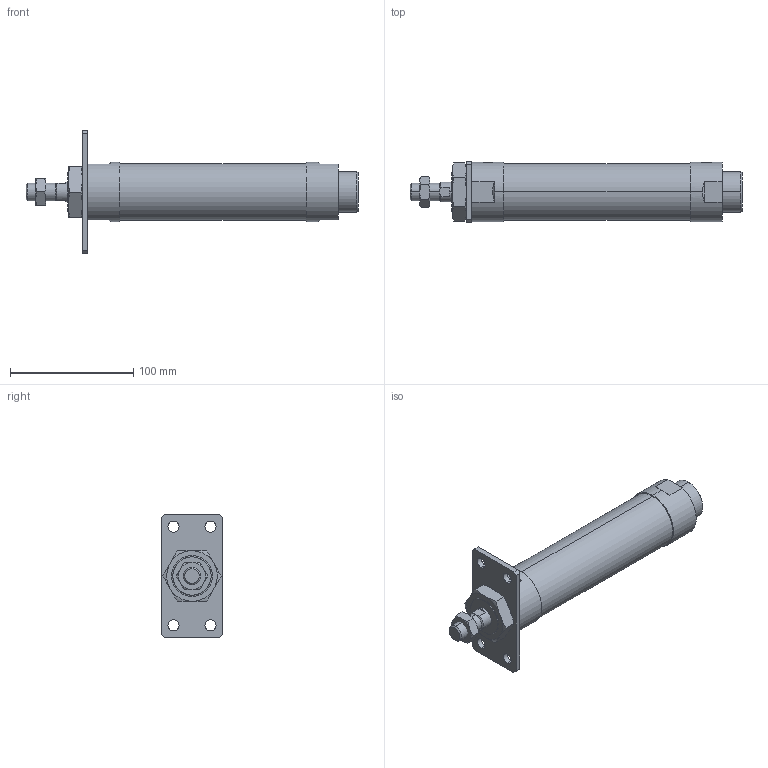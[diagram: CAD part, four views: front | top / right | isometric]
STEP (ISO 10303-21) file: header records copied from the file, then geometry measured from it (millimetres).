
FILE_DESCRIPTION (( 'STEP AP203' ), '1' );
FILE_NAME ('J#2-40-100-A.STEP', '2016-03-08T07:57:23', ( '' ), ( '' ), 'SwSTEP 2.0', 'SolidWorks 2014', '' );
FILE_SCHEMA (( 'CONFIG_CONTROL_DESIGN' ));
Length unit declared in the file: millimetre
Products named in the file (5): J#2-40-100-A; J#2-40-100; J#2-40-A
Assembly tree (4 placements, depth 2):
  J#2-40-100-A
    J#2-40-100
    (unnamed)
    (unnamed)
    J#2-40-A
Bounding box: 269 x 50 x 100 mm (x, y, z)
Volume: 401459.2 mm3; surface area: 54942.1 mm2
Topology: 4 solids, 4 shells, 114 faces, 264 edges, 161 vertices
Faces by surface type: plane 43, cylinder 32, torus 24, cone 15
Entity records: 4198 total; most frequent: CARTESIAN_POINT 1133, DIRECTION 537, ORIENTED_EDGE 520, EDGE_CURVE 260, AXIS2_PLACEMENT_3D 219, VERTEX_POINT 161, EDGE_LOOP 135, ADVANCED_FACE 114
